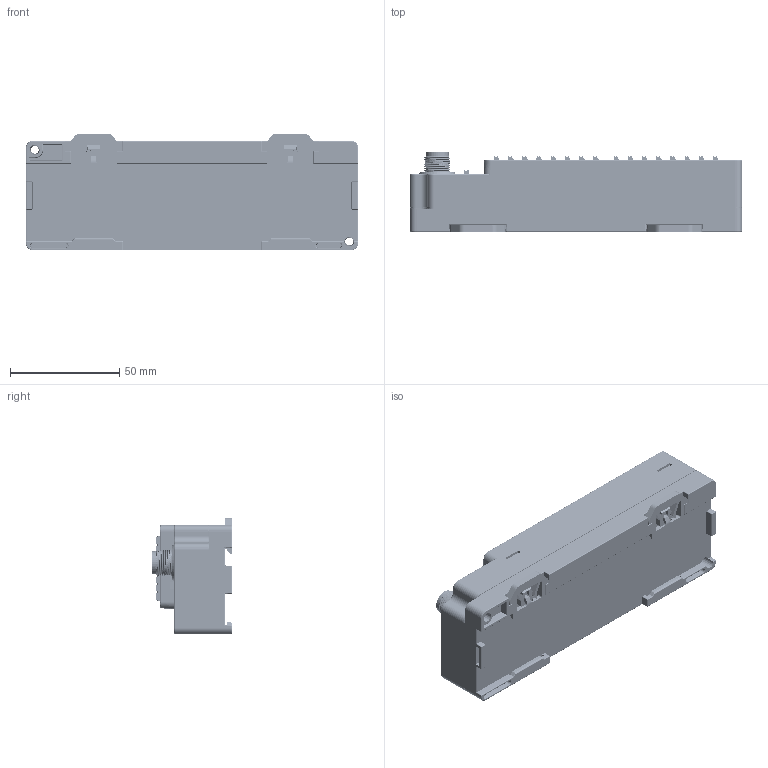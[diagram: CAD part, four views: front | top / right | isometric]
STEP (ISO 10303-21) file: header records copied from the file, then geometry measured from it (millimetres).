
FILE_DESCRIPTION((''),'2;1');
FILE_NAME('IOL5A','2026-01-06T14:37:11',('Administrator'),(''),'CREO PARAMETRIC BY PTC INC, 2022073','CREO PARAMETRIC BY PTC INC, 2022073','');
FILE_SCHEMA(('AUTOMOTIVE_DESIGN { 1 0 10303 214 1 1 1 1 }'));
Products named in the file (1): IOL5A
Bounding box: 152 x 36.6 x 53.35 mm (x, y, z)
Surface area: 133969.9 mm2 (no closed solid volume)
Topology: 0 solids, 78 shells, 24015 faces, 68072 edges, 44647 vertices
Faces by surface type: plane 16549, cylinder 4869, bspline 888, extrusion 869, torus 444, cone 336, sphere 60
Entity records: 1064624 total; most frequent: CARTESIAN_POINT 276724, ORIENTED_EDGE 135584, DIRECTION 119947, EDGE_CURVE 67792, VECTOR 52797, LINE 51928, VERTEX_POINT 44519, AXIS2_PLACEMENT_3D 33575
